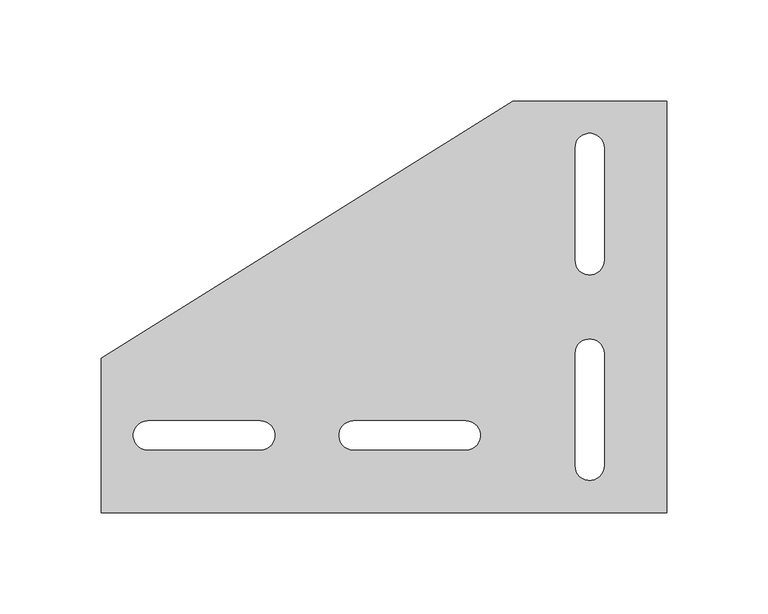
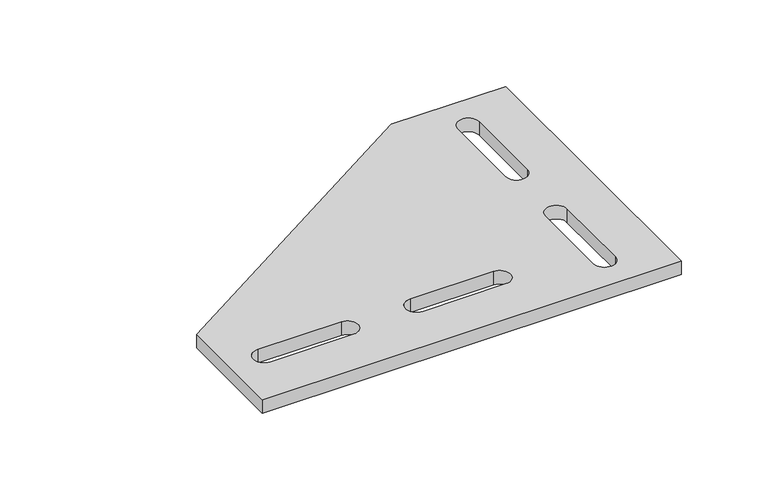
"""IFC4 building model written with IfcOpenShell, lengths in millimetres: proxy geometry, 14NSF-P13 : 14NSF-P13."""

from ifc_helpers import new_model, si_unit, point, frame_2d, origin, origin_with_axes, place, context, project, spatial, polyline, circle_curve, trimmed, segment, composite_curve, outline, extrude, source, transform, mapped, element, save


def generic_models_eda28171(model_context):
    return source(origin(), model_context, "Body", "SweptSolid", [
        extrude(outline(polyline([(-139.7, 0.0), (-139.7, 76.2), (63.5, 203.2), (139.7, 203.2), (139.7, 0.0), (-139.7, 0.0)]), holes=[composite_curve([segment(trimmed(circle_curve(frame_2d((-61.11875, 38.1)), 7.14375), [point((-61.11875, 30.95625))], [point((-61.11875, 45.24375))], True, "CARTESIAN"), True, "CONTINUOUS"), segment(polyline([(-61.11875, 45.24375), (-116.68125, 45.24375)]), True, "CONTINUOUS"), segment(trimmed(circle_curve(frame_2d((-116.68125, 38.1)), 7.14375), [point((-116.68125, 45.24375))], [point((-116.68125, 30.95625))], True, "CARTESIAN"), True, "CONTINUOUS"), segment(polyline([(-116.68125, 30.95625), (-61.11875, 30.95625)]), True, "CONTINUOUS")], self_intersect=False), composite_curve([segment(trimmed(circle_curve(frame_2d((101.6, 23.01875)), 7.14375), [point((94.45625, 23.01875))], [point((108.74375, 23.01875))], True, "CARTESIAN"), True, "CONTINUOUS"), segment(polyline([(108.74375, 23.01875), (108.74375, 78.58125)]), True, "CONTINUOUS"), segment(trimmed(circle_curve(frame_2d((101.6, 78.58125)), 7.14375), [point((108.74375, 78.58125))], [point((94.45625, 78.58125))], True, "CARTESIAN"), True, "CONTINUOUS"), segment(polyline([(94.45625, 78.58125), (94.45625, 23.01875)]), True, "CONTINUOUS")], self_intersect=False), composite_curve([segment(trimmed(circle_curve(frame_2d((40.48125, 38.1)), 7.14375), [point((40.48125, 30.95625))], [point((40.48125, 45.24375))], True, "CARTESIAN"), True, "CONTINUOUS"), segment(polyline([(40.48125, 45.24375), (-15.08125, 45.24375)]), True, "CONTINUOUS"), segment(trimmed(circle_curve(frame_2d((-15.08125, 38.1)), 7.14375), [point((-15.08125, 45.24375))], [point((-15.08125, 30.95625))], True, "CARTESIAN"), True, "CONTINUOUS"), segment(polyline([(-15.08125, 30.95625), (40.48125, 30.95625)]), True, "CONTINUOUS")], self_intersect=False), composite_curve([segment(trimmed(circle_curve(frame_2d((101.6, 124.61875)), 7.14375), [point((94.45625, 124.61875))], [point((108.74375, 124.61875))], True, "CARTESIAN"), True, "CONTINUOUS"), segment(polyline([(108.74375, 124.61875), (108.74375, 180.18125)]), True, "CONTINUOUS"), segment(trimmed(circle_curve(frame_2d((101.6, 180.18125)), 7.14375), [point((108.74375, 180.18125))], [point((94.45625, 180.18125))], True, "CARTESIAN"), True, "CONTINUOUS"), segment(polyline([(94.45625, 180.18125), (94.45625, 124.61875)]), True, "CONTINUOUS")], self_intersect=False)]), origin_with_axes(), (0.0, 0.0, 1.0), 9.525),
    ])


if __name__ == "__main__":
    model = new_model("IFC4")
    model_context = context("Model", 3, world=origin())
    ifc_project = project(units=[si_unit("LENGTHUNIT", "METRE", prefix="MILLI")], contexts=[model_context])
    site = spatial("IfcSite", under=ifc_project)
    building = spatial("IfcBuilding", under=site)
    placement = place(None, origin())
    generic_models_shape = generic_models_eda28171(model_context)
    element("IfcBuildingElementProxy", 1, Name="14NSF-P13 : 14NSF-P13", ObjectType="14NSF-P13 : 14NSF-P13", at=placement, inside=building, context=model_context, shape_type="MappedRepresentation", body=[
        mapped(generic_models_shape, transform((0.0, 0.0, 0.0), x_axis=(1.0, 0.0, 0.0), y_axis=(0.0, 1.0, 0.0), z_axis=(0.0, 0.0, 1.0))),
    ])
    save(model, "model.ifc")
